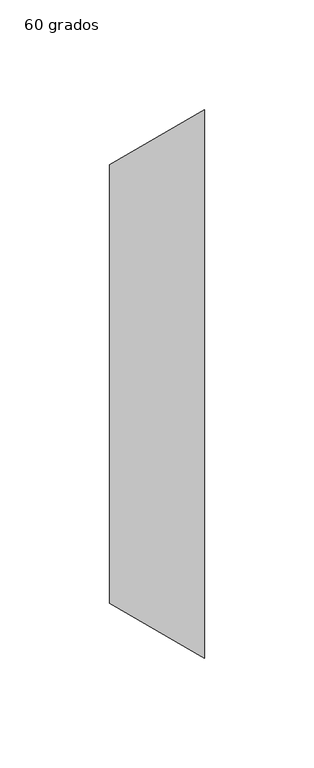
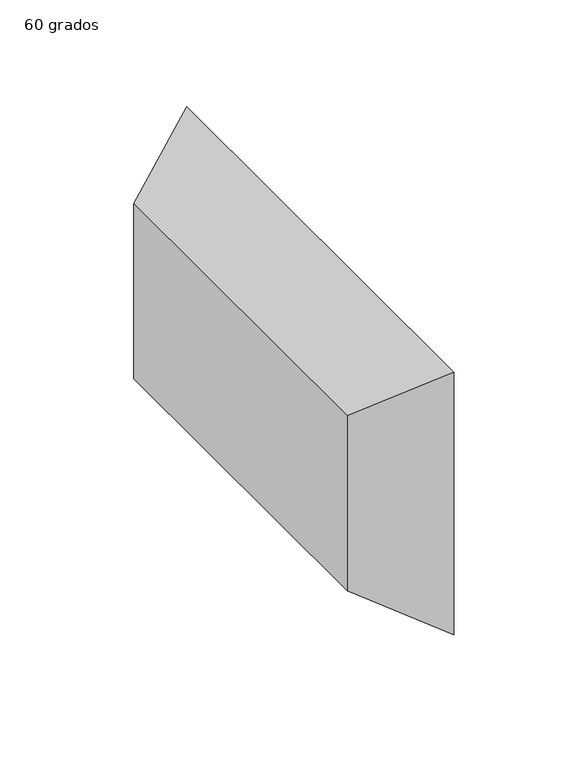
"""IFC4 building model written with IfcOpenShell, lengths in millimetres: duct fitting geometry, M_Transición rectangular - Ángulo : 60 grados."""

from ifc_helpers import new_model, si_unit, origin, place, context, project, spatial, faceted_brep, source, transform, mapped, element, save


def duct_fitting_60_grados_c4f1d213(model_context):
    return source(origin(), model_context, "Body", "Brep", [
        faceted_brep([(43.3012702, -125.0, 75.0), (43.3012702, -125.0, -75.0), (43.3012702, 125.0, -75.0), (43.3012702, 125.0, 75.0), (0.0, -100.0, 50.0), (0.0, 100.0, 50.0), (0.0, 100.0, -50.0), (0.0, -100.0, -50.0)], [[[0, 1, 2, 3]], [[4, 5, 6, 7]], [[4, 7, 1, 0]], [[7, 6, 2, 1]], [[6, 5, 3, 2]], [[5, 4, 0, 3]]]),
    ])


if __name__ == "__main__":
    model = new_model("IFC4")
    model_context = context("Model", 3, world=origin())
    ifc_project = project(units=[si_unit("LENGTHUNIT", "METRE", prefix="MILLI")], contexts=[model_context])
    site = spatial("IfcSite", under=ifc_project)
    building = spatial("IfcBuilding", under=site)
    placement = place(None, origin())
    duct_fitting_60_grados_shape = duct_fitting_60_grados_c4f1d213(model_context)
    element("IfcDuctFitting", 1, ObjectType="M_Transición rectangular - Ángulo : 60 grados", at=placement, inside=building, context=model_context, shape_type="MappedRepresentation", body=[
        mapped(duct_fitting_60_grados_shape, transform((0.0, 0.0, 0.0), x_axis=(1.0, 0.0, 0.0), y_axis=(0.0, 1.0, 0.0), z_axis=(0.0, 0.0, 1.0))),
    ])
    save(model, "model.ifc")
